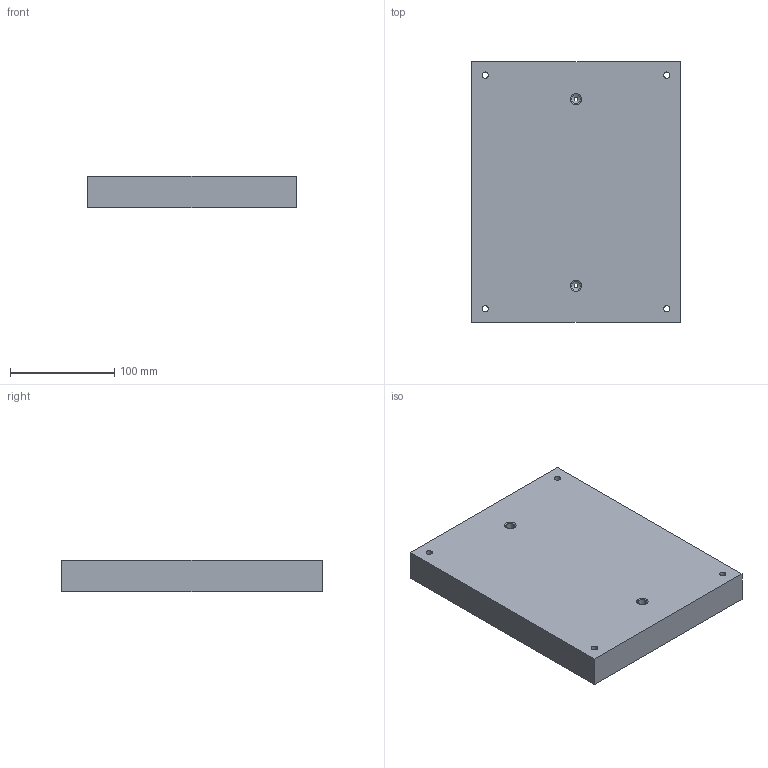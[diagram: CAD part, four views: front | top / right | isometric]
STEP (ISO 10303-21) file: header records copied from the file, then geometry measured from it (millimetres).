
FILE_DESCRIPTION (( 'STEP AP214' ), '1' );
FILE_NAME ('Moule superieur V2.STEP', '2016-07-01T13:13:12', ( '' ), ( '' ), 'SwSTEP 2.0', 'SolidWorks 2014', '' );
FILE_SCHEMA (( 'AUTOMOTIVE_DESIGN' ));
Length unit declared in the file: millimetre
Products named in the file (1): Moule superieur V2
Bounding box: 200 x 250 x 30 mm (x, y, z)
Volume: 1429685.2 mm3; surface area: 134227.7 mm2
Topology: 1 solids, 1 shells, 60 faces, 157 edges, 100 vertices
Faces by surface type: cylinder 21, plane 19, bspline 12, cone 8
Entity records: 11342 total; most frequent: CARTESIAN_POINT 9874, ORIENTED_EDGE 314, DIRECTION 274, EDGE_CURVE 157, AXIS2_PLACEMENT_3D 102, VERTEX_POINT 100, EDGE_LOOP 73, VECTOR 70
